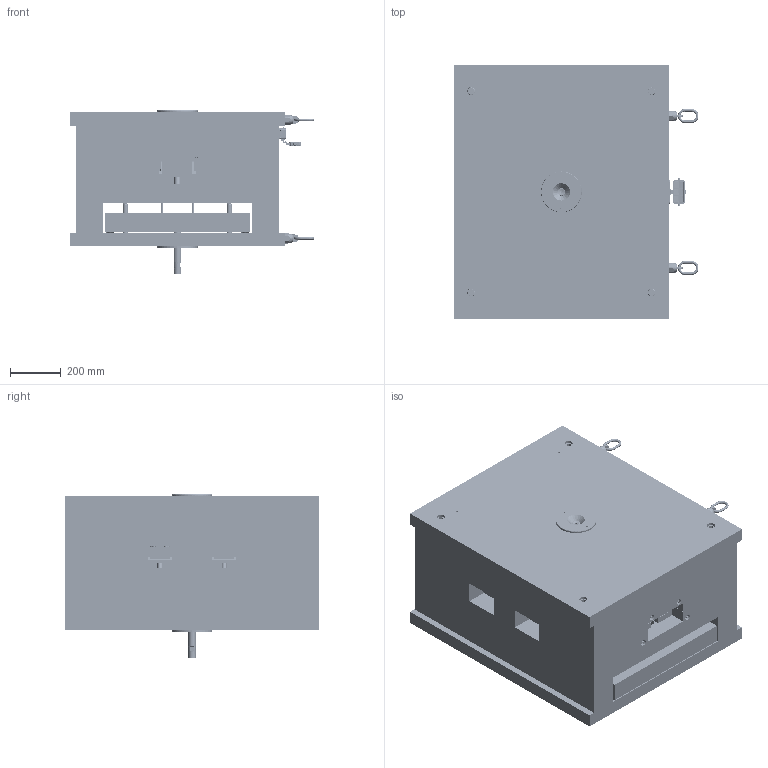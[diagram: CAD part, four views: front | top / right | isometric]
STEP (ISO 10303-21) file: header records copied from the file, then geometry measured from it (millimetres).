
FILE_DESCRIPTION(('CATIA V5 STEP Exchange','CAx-IF Rec.Pracs.--- Model Styling and Organization---1.5--- 2016-08-15','CAx-IF Rec.Pracs.---Supplemental Geometry---1.0---2011-11-01','CAx-IF Rec.Pracs.--- Composite Materials ---3.4---2017-06-13','CAx-IF Rec.Pracs.---Tessellated 3D Geometry---1.0---2015-12-17'),'2;1');
FILE_NAME('E:\odevzdávání\forma_rybak_final_bc.stp','2025-05-15T22:09:55+00:00',('none'),('none'),'CATIA Version 5-6 Release 2020 SP6','CATIA V5 STEP AP242 v2','none');
FILE_SCHEMA(('AP242_MANAGED_MODEL_BASED_3D_ENGINEERING_MIM_LF {1 0 10303 442 1 1 4}'));
Products named in the file (320): forma_rybak_final_bc; Prava_strana; Product9; Part21.1; Part3; TlgItf_Product9; CapScrew_E1200_8; CapScrew_E1200_13; Copy (1) of Part3; deska_horky_Vtok_final; F 15_796996_46_1730; EH 4200_37_SMM_1; EH 4200_37_SMM; EH 4100_37x70_11_1; EH 4100_37x70_11; EH 6400_12_30x53_40; E 1300_6x36; E 1200_5x8; E 1200_8x75_3; E 1200_8x75_2; E 1200_8x75_1; E 1200_8x75; DIN 6340-8.4_3; DIN 6340-8.4_2; DIN 6340-8.4_1; DIN 6340-8.4; ISO 13337-13x20_3; ISO 13337-13x20_2; ISO 13337-13x20_1; ISO 13337-13x20; EH 6281_19x19_3; EH 6281_19x19_2; EH 6281_19x19_1; EH 6281_19x19; EH 6304_20_12_1; EH 6304_20_12; EH 6200_32x19; EH 61001 IMT2_403_37 __ A=153.69; FH 63_796 996_105_IMT2_37_153.69_0_1730_0; F 15_796996_46_1730_1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
Assembly tree (385 placements, depth 5):
  forma_rybak_final_bc
    Prava_strana
      Product9
        Part21.1
        Part3
        TlgItf_Product9
        CapScrew_E1200_8  x2
        CapScrew_E1200_13  x2
        Copy (1) of Part3
      deska_horky_Vtok_final
        F 15_796996_46_1730
          EH 4200_37_SMM_1
          EH 4200_37_SMM
          EH 4100_37x70_11_1
          EH 4100_37x70_11
          EH 6400_12_30x53_40
          E 1300_6x36
          E 1200_5x8
          E 1200_8x75_3
          E 1200_8x75_2
          E 1200_8x75_1
          E 1200_8x75
          DIN 6340-8.4_3
          DIN 6340-8.4_2
          DIN 6340-8.4_1
          DIN 6340-8.4
          ISO 13337-13x20_3
          ISO 13337-13x20_2
          ISO 13337-13x20_1
          ISO 13337-13x20
          EH 6281_19x19_3
          EH 6281_19x19_2
          EH 6281_19x19_1
          EH 6281_19x19
          EH 6304_20_12_1
          EH 6304_20_12
          EH 6200_32x19
          EH 61001 IMT2_403_37 __ A=153.69
          FH 63_796 996_105_IMT2_37_153.69_0_1730_0
          F 15_796996_46_1730_1
          CapScrew_E1200_4  x4
          TlgItf_F 15_796996_46_1730
          Sleeve_E1160_2  x4
          CapScrew_E1200_1  x8
          CapScrew_E1200_5  x4
        E 2714_16B
          2025_05_10_13_16_53_0961
          2025_05_10_13_16_53_0946
          2025_05_10_13_16_53_0930
          2025_05_10_13_16_53_0915
          2025_05_10_13_16_53_0899
        E 1362_160_90_30x20
          E 1362_160_90_30x20_1
        izolacni_deska
        CapScrew_E1200_10  x2
        CountersunkScrew_E1220_6  x4
        LeaderPin_E1000  x4
      Copy (1) of sikmy_kolik_s_pouzdrem_maly
        E 3060_20_36
          E 3060_20_36_1
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Bounding box: 960.5 x 996 x 641.9 mm (x, y, z)
Volume: 376269681.1 mm3; surface area: 22969082.4 mm2
Topology: 325 solids, 335 shells, 10933 faces, 26288 edges, 16661 vertices
Faces by surface type: cylinder 4011, plane 3976, cone 1822, torus 904, bspline 108, sphere 76, extrusion 36
Entity records: 306056 total; most frequent: CARTESIAN_POINT 97928, ORIENTED_EDGE 43656, DIRECTION 32958, EDGE_CURVE 21850, AXIS2_PLACEMENT_3D 14678, VERTEX_POINT 14091, VECTOR 11169, LINE 11134
